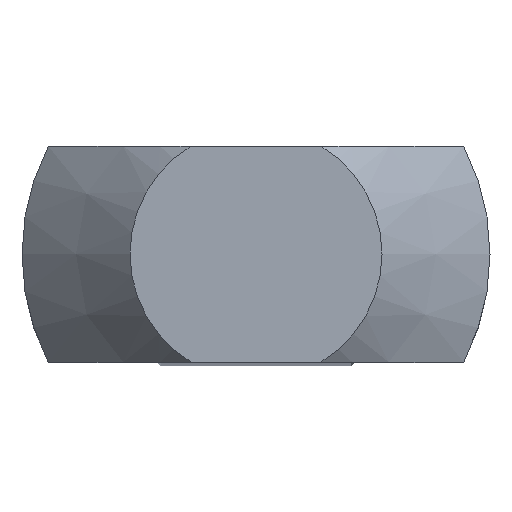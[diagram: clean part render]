
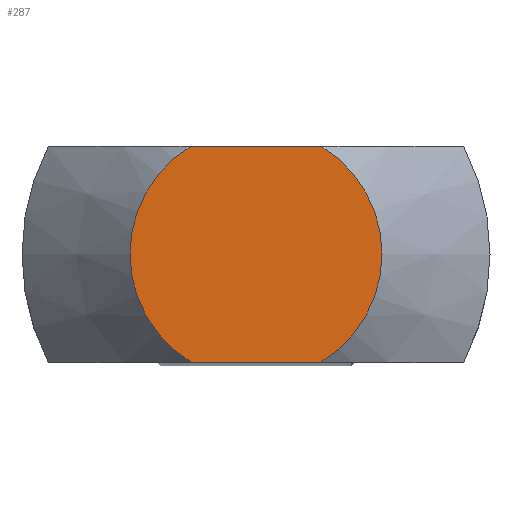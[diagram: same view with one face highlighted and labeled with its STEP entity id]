
A CAD part, top view. The second image highlights one B-rep face of the part: STEP entity #287.
In plain terms, the highlighted planar face has unit normal (0, 0, 1).
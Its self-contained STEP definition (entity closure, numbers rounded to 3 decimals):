
#24=LINE('',#452,#42);
#25=LINE('',#455,#43);
#42=VECTOR('',#360,10.);
#43=VECTOR('',#363,10.);
#60=PLANE('',#320);
#68=FACE_OUTER_BOUND('',#85,.T.);
#85=EDGE_LOOP('',(#202,#203,#204,#205));
#104=CIRCLE('',#318,3.5);
#106=CIRCLE('',#321,3.5);
#129=VERTEX_POINT('',#439);
#130=VERTEX_POINT('',#443);
#132=VERTEX_POINT('',#451);
#133=VERTEX_POINT('',#453);
#157=EDGE_CURVE('',#129,#130,#104,.T.);
#160=EDGE_CURVE('',#129,#132,#24,.T.);
#161=EDGE_CURVE('',#133,#132,#106,.T.);
#162=EDGE_CURVE('',#133,#130,#25,.T.);
#202=ORIENTED_EDGE('',*,*,#157,.F.);
#203=ORIENTED_EDGE('',*,*,#160,.T.);
#204=ORIENTED_EDGE('',*,*,#161,.F.);
#205=ORIENTED_EDGE('',*,*,#162,.T.);
#287=ADVANCED_FACE('',(#68),#60,.T.);
#318=AXIS2_PLACEMENT_3D('',#444,#354,#355);
#320=AXIS2_PLACEMENT_3D('',#450,#358,#359);
#321=AXIS2_PLACEMENT_3D('',#454,#361,#362);
#354=DIRECTION('center_axis',(0.,0.,-1.));
#355=DIRECTION('ref_axis',(-1.,0.,0.));
#358=DIRECTION('center_axis',(0.,0.,1.));
#359=DIRECTION('ref_axis',(1.,0.,0.));
#360=DIRECTION('',(1.,0.,0.));
#361=DIRECTION('center_axis',(0.,0.,-1.));
#362=DIRECTION('ref_axis',(1.,0.,0.));
#363=DIRECTION('',(-1.,0.,0.));
#439=CARTESIAN_POINT('',(-1.803,-3.,6.4));
#443=CARTESIAN_POINT('',(-1.803,3.,6.4));
#444=CARTESIAN_POINT('Origin',(0.,0.,
6.4));
#450=CARTESIAN_POINT('Origin',(0.,-3.75,6.4));
#451=CARTESIAN_POINT('',(1.803,-3.,6.4));
#452=CARTESIAN_POINT('',(6.874,-3.,6.4));
#453=CARTESIAN_POINT('',(1.803,3.,6.4));
#454=CARTESIAN_POINT('Origin',(0.,0.,
6.4));
#455=CARTESIAN_POINT('',(6.874,3.,6.4));
